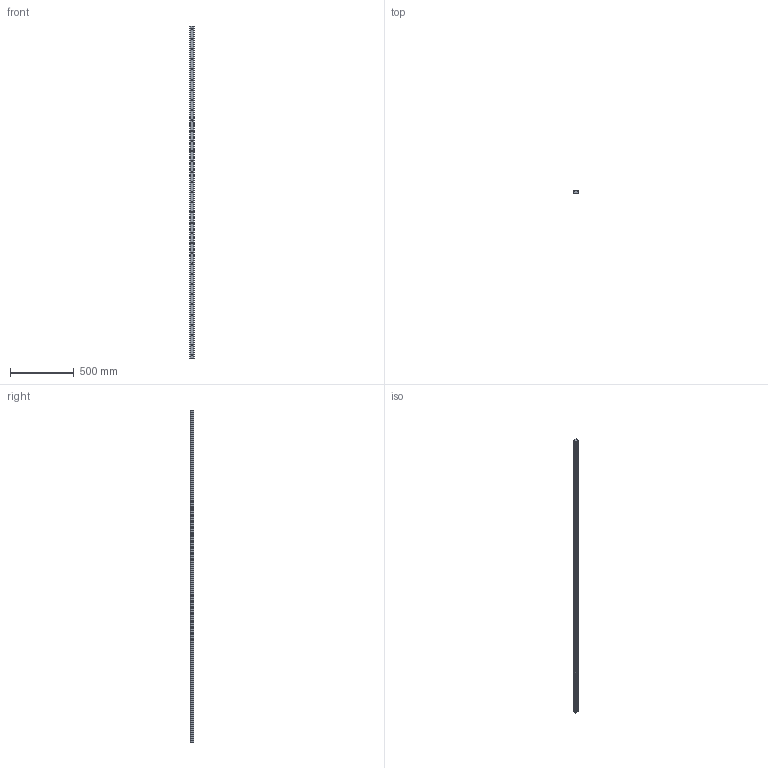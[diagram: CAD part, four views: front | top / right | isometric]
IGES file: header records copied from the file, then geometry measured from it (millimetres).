
Start section: SolidWorks IGES file using analytic representation for surfaces
Global section: file name: C:\Users\IanO\Desktop\Temp File\GENERAL\L1016_v2\L1016.RF35_v2\L1016.RF35_v2_20190612_IGES\L1016.RF35-2600.igs; native system: SolidWorks 2017; preprocessor: SolidWorks 2017; author: IanO; date: 190613.173101; units: millimetre
Bounding box: 34 x 26 x 2600 mm (x, y, z)
Surface area: 338918.4 mm2 (no closed solid volume)
Topology: 0 solids, 0 shells, 257 faces, 4128 edges, 4062 vertices
Faces by surface type: revolution 202, bspline 55
